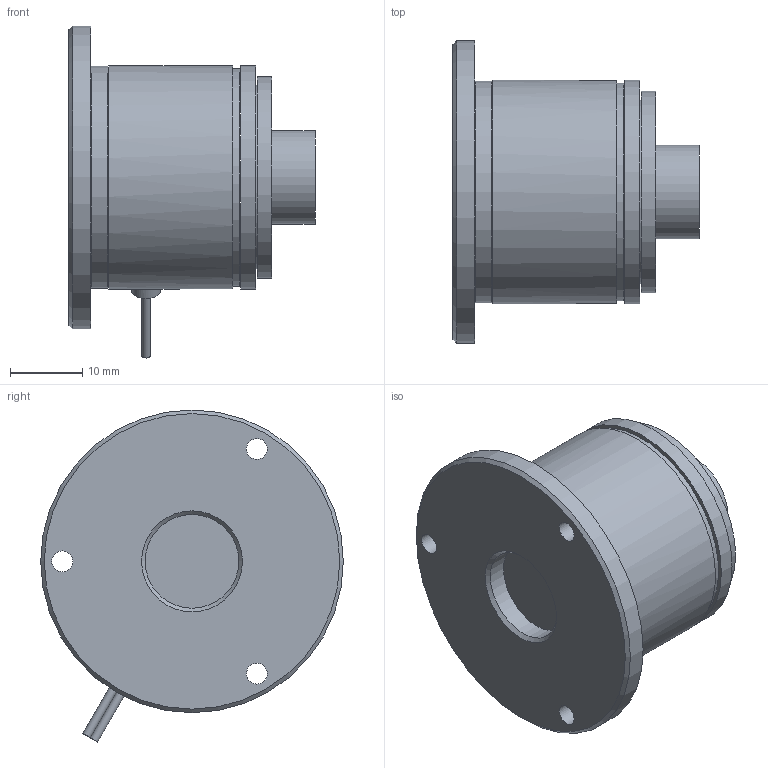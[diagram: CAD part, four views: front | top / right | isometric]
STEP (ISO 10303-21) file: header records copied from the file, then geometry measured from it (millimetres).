
FILE_DESCRIPTION(/* description */ (''),/* implementation_level */ '2;1');
FILE_NAME(/* name */ 'G:\Zeichnungsarchiv\3D-Modelle\PM 03\PM 03 Bauform 1\14.120.03.101-001_3D Modell_6 mm.stp',/* time_stamp */ '2013-07-11T13:37:55+02:00',/* author */ ('thomas.schoettelndre'),/* organization */ (''),/* preprocessor_version */ 'ST-DEVELOPER v15.2',/* originating_system */ 'Autodesk Inventor 2014',/* authorisation */ '');
FILE_SCHEMA (('AUTOMOTIVE_DESIGN { 1 0 10303 214 3 1 1 }'));
Length unit declared in the file: centimetre
Products named in the file (1): 14.120.03.101-001_3D_6mm
Bounding box: 34.15 x 42 x 46.06 mm (x, y, z)
Volume: 21380 mm3; surface area: 12542.4 mm2
Topology: 3 solids, 3 shells, 289 faces, 800 edges, 520 vertices
Faces by surface type: cylinder 134, plane 115, cone 18, bspline 14, torus 8
Full cylindrical faces by diameter (mm): 2.5 x6, 2.9 x3, 3 x2, 3.7 x2, 4 x1, 5.5 x2, 13 x2, 18 x2, 20 x1, 25 x1, 25.5 x1, 28 x2, 30.8 x1, 31 x2, 42 x1
Entity records: 10164 total; most frequent: CARTESIAN_POINT 2509, ORIENTED_EDGE 1508, DIRECTION 1490, EDGE_CURVE 754, AXIS2_PLACEMENT_3D 584, VERTEX_POINT 509, EDGE_LOOP 389, LINE 322
